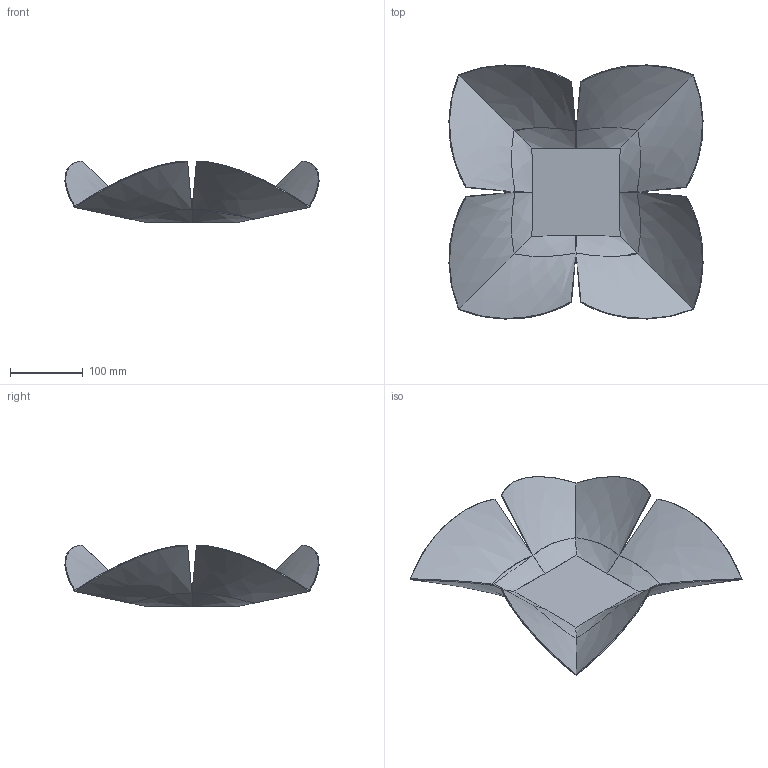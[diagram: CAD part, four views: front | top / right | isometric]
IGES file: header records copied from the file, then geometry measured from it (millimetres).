
Global section: file name: C:\Users\colombo_c\Desktop\Danese\Sito\3D mancanti\Apax\Apax.igs; native system: Rhinoceros ( Apr 16 2024 ); preprocessor: Trout Lake IGES 012 Apr 16 2024; date: 250710.103909; units: millimetre
Bounding box: 350.21 x 350.21 x 85.11 mm (x, y, z)
Surface area: 281142.8 mm2 (no closed solid volume)
Topology: 0 solids, 0 shells, 86 faces, 498 edges, 470 vertices
Faces by surface type: bspline 86
